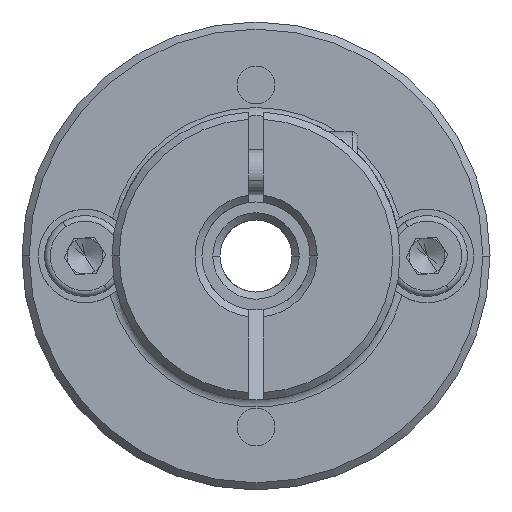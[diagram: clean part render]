
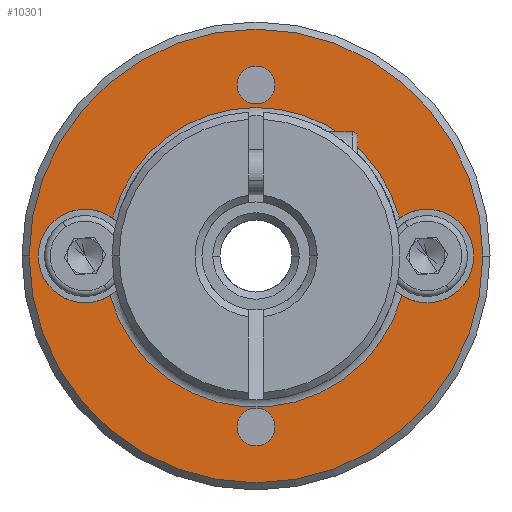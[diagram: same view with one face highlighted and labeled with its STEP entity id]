
A CAD part, front view. The second image highlights one B-rep face of the part: STEP entity #10301.
In plain terms, the highlighted planar face has unit normal (0, -1, 0).
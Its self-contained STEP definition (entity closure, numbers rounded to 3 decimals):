
#170 = DIRECTION ( 'NONE',  ( 0., 1., 0. ) ) ;
#307 = DIRECTION ( 'NONE',  ( 0., 1., 0. ) ) ;
#382 = EDGE_CURVE ( 'NONE', #15640, #2137, #15400, .T. ) ;
#649 = DIRECTION ( 'NONE',  ( 1., 0., 0. ) ) ;
#756 = VERTEX_POINT ( 'NONE', #14534 ) ;
#839 = DIRECTION ( 'NONE',  ( 1., 0., 0. ) ) ;
#877 = DIRECTION ( 'NONE',  ( 1., 0., 0. ) ) ;
#922 = CARTESIAN_POINT ( 'NONE',  ( 4.944, -8.355, 28.105 ) ) ;
#1011 = DIRECTION ( 'NONE',  ( 0., -1., 0. ) ) ;
#1435 = CARTESIAN_POINT ( 'NONE',  ( -3.03, -8.355, 16.5 ) ) ;
#1625 = EDGE_CURVE ( 'NONE', #14478, #11896, #17007, .T. ) ;
#1904 = DIRECTION ( 'NONE',  ( 1., 0., 0. ) ) ;
#2122 = AXIS2_PLACEMENT_3D ( 'NONE', #1435, #307, #3163 ) ;
#2137 = VERTEX_POINT ( 'NONE', #17632 ) ;
#2279 = CARTESIAN_POINT ( 'NONE',  ( -3.03, -8.355, 26. ) ) ;
#2314 = CARTESIAN_POINT ( 'NONE',  ( -12.53, -8.355, 26. ) ) ;
#2485 = EDGE_CURVE ( 'NONE', #8167, #11316, #19284, .T. ) ;
#2491 = CARTESIAN_POINT ( 'NONE',  ( 6.47, -8.355, 26. ) ) ;
#2525 = DIRECTION ( 'NONE',  ( 0., -1., 0. ) ) ;
#2551 = ORIENTED_EDGE ( 'NONE', *, *, #1625, .T. ) ;
#2592 = CARTESIAN_POINT ( 'NONE',  ( -3.03, -8.355, 26. ) ) ;
#2668 = ORIENTED_EDGE ( 'NONE', *, *, #5748, .T. ) ;
#3163 = DIRECTION ( 'NONE',  ( 1., 0., 0. ) ) ;
#3538 = FACE_BOUND ( 'NONE', #7161, .T. ) ;
#3671 = DIRECTION ( 'NONE',  ( 0., 1., 0. ) ) ;
#3678 = CARTESIAN_POINT ( 'NONE',  ( 6.47, -8.355, 26. ) ) ;
#4316 = DIRECTION ( 'NONE',  ( 0., 1., 0. ) ) ;
#4403 = CIRCLE ( 'NONE', #6949, 12.6 ) ;
#4517 = AXIS2_PLACEMENT_3D ( 'NONE', #6389, #16891, #649 ) ;
#4631 = DIRECTION ( 'NONE',  ( 0., 1., 0. ) ) ;
#4866 = AXIS2_PLACEMENT_3D ( 'NONE', #2491, #7059, #11719 ) ;
#5453 = CARTESIAN_POINT ( 'NONE',  ( -11.004, -8.355, 28.105 ) ) ;
#5626 = AXIS2_PLACEMENT_3D ( 'NONE', #7584, #13645, #16705 ) ;
#5748 = EDGE_CURVE ( 'NONE', #11896, #10197, #17489, .T. ) ;
#5830 = PLANE ( 'NONE',  #16498 ) ;
#6389 = CARTESIAN_POINT ( 'NONE',  ( -3.03, -8.355, 26. ) ) ;
#6549 = EDGE_CURVE ( 'NONE', #10055, #13053, #4403, .T. ) ;
#6825 = CARTESIAN_POINT ( 'NONE',  ( -1.98, -8.355, 16.5 ) ) ;
#6949 = AXIS2_PLACEMENT_3D ( 'NONE', #2592, #1011, #8789 ) ;
#7059 = DIRECTION ( 'NONE',  ( 0., 1., 0. ) ) ;
#7087 = DIRECTION ( 'NONE',  ( 1., 0., 0. ) ) ;
#7161 = EDGE_LOOP ( 'NONE', ( #2551, #2668, #15321, #13067, #17177, #7804 ) ) ;
#7543 = FACE_BOUND ( 'NONE', #13542, .T. ) ;
#7584 = CARTESIAN_POINT ( 'NONE',  ( -3.03, -8.355, 26. ) ) ;
#7804 = ORIENTED_EDGE ( 'NONE', *, *, #14067, .T. ) ;
#8167 = VERTEX_POINT ( 'NONE', #922 ) ;
#8789 = DIRECTION ( 'NONE',  ( 1., 0., 0. ) ) ;
#9207 = CARTESIAN_POINT ( 'NONE',  ( -1.98, -8.355, 35.5 ) ) ;
#9246 = CIRCLE ( 'NONE', #11635, 1.05 ) ;
#9420 = CARTESIAN_POINT ( 'NONE',  ( 9.57, -8.355, 26. ) ) ;
#9856 = EDGE_CURVE ( 'NONE', #13053, #10055, #13841, .T. ) ;
#10055 = VERTEX_POINT ( 'NONE', #9420 ) ;
#10182 = AXIS2_PLACEMENT_3D ( 'NONE', #2279, #3671, #16999 ) ;
#10197 = VERTEX_POINT ( 'NONE', #5453 ) ;
#10301 = ADVANCED_FACE ( 'NONE', ( #15674, #11497, #7543, #3538 ), #5830, .T. ) ;
#10665 = CIRCLE ( 'NONE', #10182, 8.4 ) ;
#10815 = DIRECTION ( 'NONE',  ( 1., 0., 0. ) ) ;
#11003 = CARTESIAN_POINT ( 'NONE',  ( 5.078, -8.355, 23.804 ) ) ;
#11145 = EDGE_LOOP ( 'NONE', ( #14653, #13015 ) ) ;
#11316 = VERTEX_POINT ( 'NONE', #11654 ) ;
#11389 = DIRECTION ( 'NONE',  ( 0., 1., 0. ) ) ;
#11431 = EDGE_CURVE ( 'NONE', #2137, #15640, #9246, .T. ) ;
#11497 = FACE_BOUND ( 'NONE', #11145, .T. ) ;
#11635 = AXIS2_PLACEMENT_3D ( 'NONE', #12164, #170, #17909 ) ;
#11654 = CARTESIAN_POINT ( 'NONE',  ( 9.07, -8.355, 26. ) ) ;
#11719 = DIRECTION ( 'NONE',  ( 1., 0., 0. ) ) ;
#11870 = EDGE_CURVE ( 'NONE', #756, #16841, #16086, .T. ) ;
#11896 = VERTEX_POINT ( 'NONE', #19371 ) ;
#12164 = CARTESIAN_POINT ( 'NONE',  ( -3.03, -8.355, 35.5 ) ) ;
#12374 = EDGE_LOOP ( 'NONE', ( #17430, #18355 ) ) ;
#12906 = ORIENTED_EDGE ( 'NONE', *, *, #382, .T. ) ;
#13015 = ORIENTED_EDGE ( 'NONE', *, *, #13287, .T. ) ;
#13053 = VERTEX_POINT ( 'NONE', #14365 ) ;
#13067 = ORIENTED_EDGE ( 'NONE', *, *, #2485, .T. ) ;
#13287 = EDGE_CURVE ( 'NONE', #16841, #756, #15574, .T. ) ;
#13397 = CARTESIAN_POINT ( 'NONE',  ( -3.03, -8.355, 16.5 ) ) ;
#13542 = EDGE_LOOP ( 'NONE', ( #15486, #12906 ) ) ;
#13645 = DIRECTION ( 'NONE',  ( 0., -1., 0. ) ) ;
#13841 = CIRCLE ( 'NONE', #5626, 12.6 ) ;
#13968 = AXIS2_PLACEMENT_3D ( 'NONE', #13397, #4316, #16382 ) ;
#14067 = EDGE_CURVE ( 'NONE', #16294, #14478, #10665, .T. ) ;
#14300 = DIRECTION ( 'NONE',  ( 0., 1., 0. ) ) ;
#14365 = CARTESIAN_POINT ( 'NONE',  ( -15.63, -8.355, 26. ) ) ;
#14478 = VERTEX_POINT ( 'NONE', #15406 ) ;
#14534 = CARTESIAN_POINT ( 'NONE',  ( -4.08, -8.355, 16.5 ) ) ;
#14653 = ORIENTED_EDGE ( 'NONE', *, *, #11870, .T. ) ;
#15321 = ORIENTED_EDGE ( 'NONE', *, *, #19375, .T. ) ;
#15400 = CIRCLE ( 'NONE', #16510, 1.05 ) ;
#15406 = CARTESIAN_POINT ( 'NONE',  ( -11.138, -8.355, 23.804 ) ) ;
#15486 = ORIENTED_EDGE ( 'NONE', *, *, #11431, .T. ) ;
#15574 = CIRCLE ( 'NONE', #2122, 1.05 ) ;
#15640 = VERTEX_POINT ( 'NONE', #9207 ) ;
#15674 = FACE_OUTER_BOUND ( 'NONE', #12374, .T. ) ;
#16086 = CIRCLE ( 'NONE', #13968, 1.05 ) ;
#16294 = VERTEX_POINT ( 'NONE', #11003 ) ;
#16382 = DIRECTION ( 'NONE',  ( 1., 0., 0. ) ) ;
#16498 = AXIS2_PLACEMENT_3D ( 'NONE', #17628, #2525, #7087 ) ;
#16510 = AXIS2_PLACEMENT_3D ( 'NONE', #16560, #4631, #10815 ) ;
#16560 = CARTESIAN_POINT ( 'NONE',  ( -3.03, -8.355, 35.5 ) ) ;
#16705 = DIRECTION ( 'NONE',  ( 1., 0., 0. ) ) ;
#16764 = DIRECTION ( 'NONE',  ( 0., 1., 0. ) ) ;
#16819 = CIRCLE ( 'NONE', #4866, 2.6 ) ;
#16828 = CARTESIAN_POINT ( 'NONE',  ( -12.53, -8.355, 26. ) ) ;
#16841 = VERTEX_POINT ( 'NONE', #6825 ) ;
#16891 = DIRECTION ( 'NONE',  ( 0., 1., 0. ) ) ;
#16999 = DIRECTION ( 'NONE',  ( 1., 0., 0. ) ) ;
#17007 = CIRCLE ( 'NONE', #17582, 2.6 ) ;
#17177 = ORIENTED_EDGE ( 'NONE', *, *, #17598, .T. ) ;
#17430 = ORIENTED_EDGE ( 'NONE', *, *, #9856, .T. ) ;
#17489 = CIRCLE ( 'NONE', #18668, 2.6 ) ;
#17582 = AXIS2_PLACEMENT_3D ( 'NONE', #2314, #14300, #839 ) ;
#17598 = EDGE_CURVE ( 'NONE', #11316, #16294, #16819, .T. ) ;
#17628 = CARTESIAN_POINT ( 'NONE',  ( -3.03, -8.355, 26. ) ) ;
#17632 = CARTESIAN_POINT ( 'NONE',  ( -4.08, -8.355, 35.5 ) ) ;
#17909 = DIRECTION ( 'NONE',  ( 1., 0., 0. ) ) ;
#18355 = ORIENTED_EDGE ( 'NONE', *, *, #6549, .T. ) ;
#18597 = AXIS2_PLACEMENT_3D ( 'NONE', #3678, #11389, #877 ) ;
#18668 = AXIS2_PLACEMENT_3D ( 'NONE', #16828, #16764, #1904 ) ;
#18744 = CIRCLE ( 'NONE', #4517, 8.247 ) ;
#19284 = CIRCLE ( 'NONE', #18597, 2.6 ) ;
#19371 = CARTESIAN_POINT ( 'NONE',  ( -15.13, -8.355, 26. ) ) ;
#19375 = EDGE_CURVE ( 'NONE', #10197, #8167, #18744, .T. ) ;
